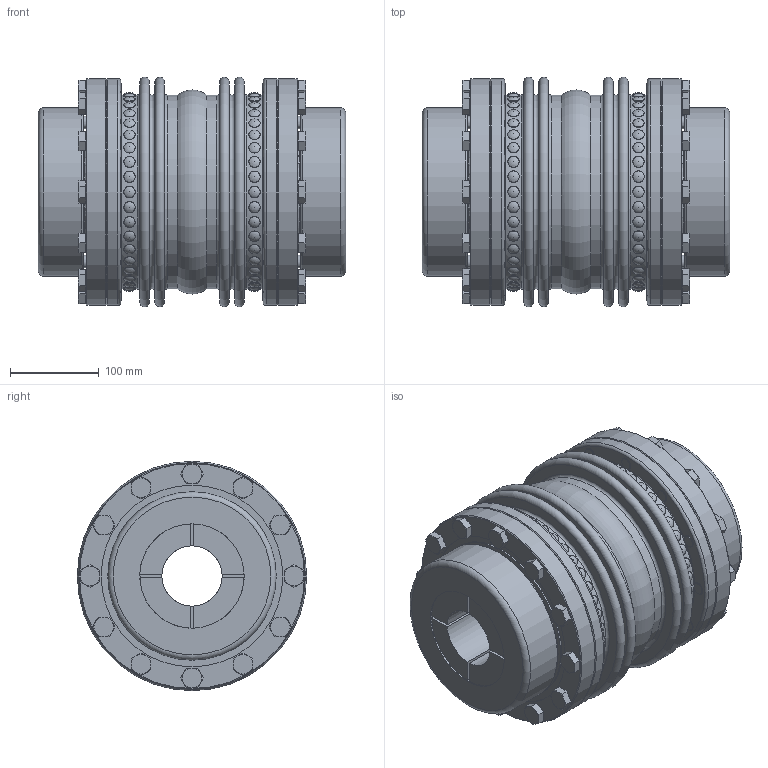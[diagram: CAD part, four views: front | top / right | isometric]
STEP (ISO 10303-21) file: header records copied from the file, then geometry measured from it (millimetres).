
FILE_DESCRIPTION(/* description */ ('Unknown'),/* implementation_level */ '2;1');
FILE_NAME(/* name */ 'KXL 9 A-A',/* time_stamp */ '2020-07-03T10:28:15+02:00',/* author */ ('Unknown'),/* organization */ ('Unknown'),/* preprocessor_version */ 'ST-DEVELOPER v16.7',/* originating_system */ 'DEX',/* authorisation */ $);
FILE_SCHEMA (('AUTOMOTIVE_DESIGN {1 0 10303 214 3 1 1}'));
Length unit declared in the file: millimetre
Products named in the file (1): KXL 9 A-A2
Bounding box: 346.85 x 258.9 x 258.9 mm (x, y, z)
Volume: 5658793.6 mm3; surface area: 1055946 mm2
Topology: 1 solids, 43 shells, 1616 faces, 3574 edges, 2298 vertices
Faces by surface type: plane 656, cylinder 374, cone 308, torus 278
Full cylindrical faces by diameter (mm): 6.4 x160, 11.835 x16, 12 x16, 14 x40, 15 x40, 20.5 x40, 68 x2, 190 x4, 193 x2, 201 x2, 205 x6, 213.7 x2, 214 x2, 216 x2, 218.5 x2, 218.8 x2, 256 x4
Entity records: 40254 total; most frequent: CARTESIAN_POINT 9533, DIRECTION 6246, ORIENTED_EDGE 5060, AXIS2_PLACEMENT_3D 2843, FACE_BOUND 2784, EDGE_LOOP 2688, EDGE_CURVE 2530, VERTEX_POINT 2034
